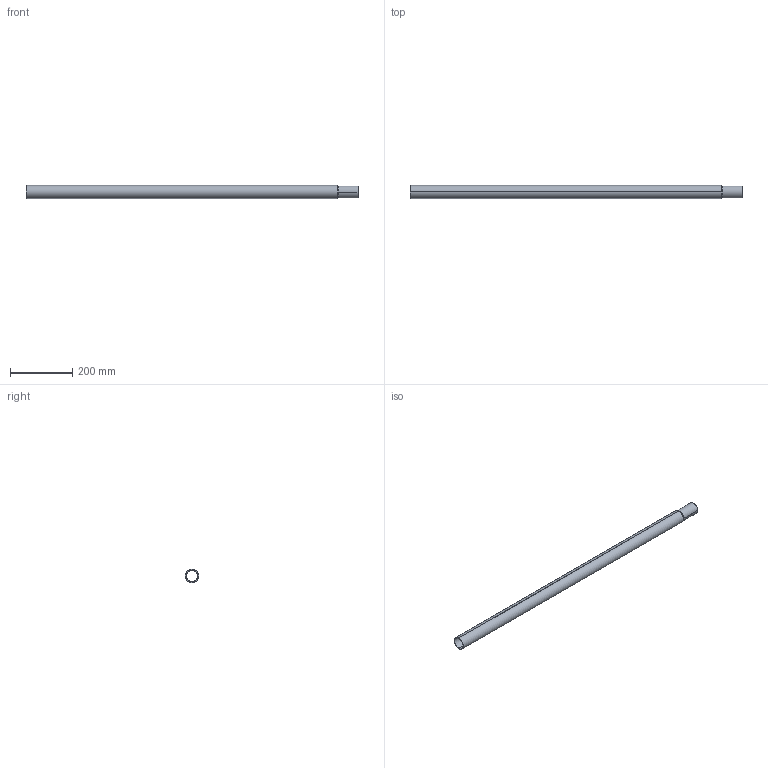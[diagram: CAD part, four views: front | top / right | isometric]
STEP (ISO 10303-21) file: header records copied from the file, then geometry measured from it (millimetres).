
FILE_DESCRIPTION (( 'STEP AP203' ), '1' );
FILE_NAME ('Rostfritt rör Ø42x1,5 L_1000.STEP', '2014-09-26T06:27:17', ( '' ), ( '' ), 'SwSTEP 2.0', 'SolidWorks 2014', '' );
FILE_SCHEMA (( 'CONFIG_CONTROL_DESIGN' ));
Length unit declared in the file: millimetre
Products named in the file (1): Rostfritt rör Ø42x1,5 L_1000
Bounding box: 1064 x 42 x 42 mm (x, y, z)
Volume: 201938.4 mm3; surface area: 269614 mm2
Topology: 1 solids, 1 shells, 14 faces, 32 edges, 20 vertices
Faces by surface type: cylinder 8, cone 4, plane 2
Entity records: 485 total; most frequent: DIRECTION 82, CARTESIAN_POINT 67, ORIENTED_EDGE 64, AXIS2_PLACEMENT_3D 35, EDGE_CURVE 32, CIRCLE 20, VERTEX_POINT 20, EDGE_LOOP 16
